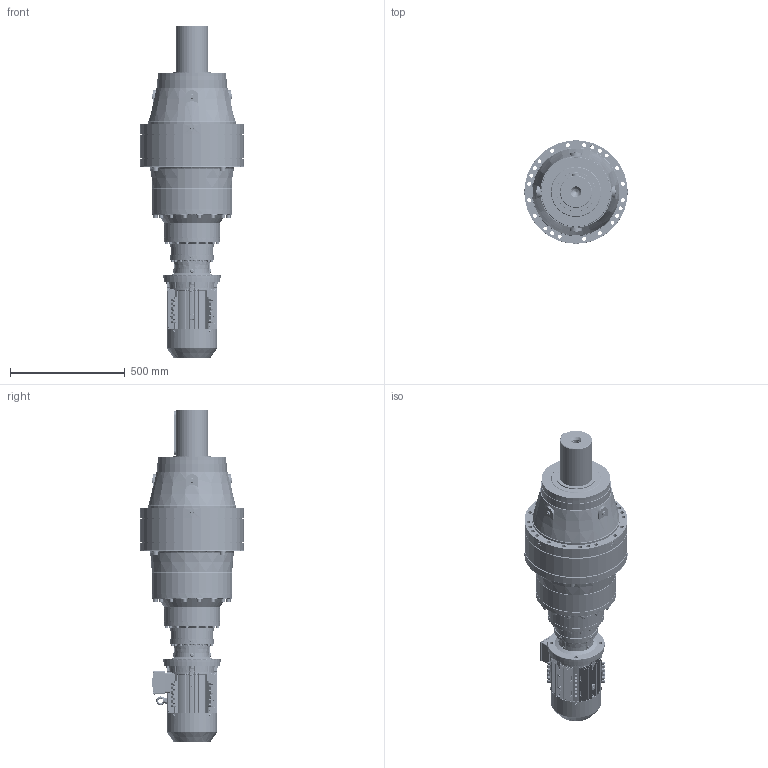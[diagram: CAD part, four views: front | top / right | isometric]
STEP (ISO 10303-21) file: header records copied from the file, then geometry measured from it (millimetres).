
FILE_DESCRIPTION (( 'STEP AP203' ), '1' );
FILE_NAME ('PVL-3504L-112-4,0KW.STEP', '2019-05-09T08:41:04', ( '' ), ( '' ), 'SwSTEP 2.0', 'SolidWorks 2012', '' );
FILE_SCHEMA (( 'CONFIG_CONTROL_DESIGN' ));
Length unit declared in the file: millimetre
Products named in the file (30): MX3-112_B5; DMX-IE3 112B5 flage; rivets for name plate gb_GB_OTHERRIVETS_TYPE93 2.5X5; PVL-3504L-112-4,0KW; cross recessed pan head screws gb_GB_CROSS_SCREWS_TYPE1 M5X12-12  H type-N_1; DMX-IE3 112  cable glands_1; eyebolts gb_GB_FASTENER_SCREWS_FRS M8-N_1; hexagon flange head tapping screws gb_GB_SQUARE_AND_HEXAGON_TYPE137 ST4.8X9.5 C-N_1; plain parallel keys_GB_CONNECTING_PIECE_KEYS_CSK 8X50_1; DMX-IE3 112   fan cover_1; DMX-IE3 112terminal box base_1; DMX-IE3 112terminal box cover_1; spring lock washers--normal type gb_GB_FASTENER_WASHER_SW 8_1; hexagon socket head cap screws gb_GB_FASTENER_SCREWS_HSHCS M8X40-N_1; hexagon nuts grade c gb_GB_FASTENER_NUT_SNC1 M8-N_1; circlips for shaft--type a large gb_GB_CONNECTING_PIECE_RING_RRA 28_1; DMX-IE3 112M4  oil seal_1; DMX-IE3 oil seal_1; DMX-IE3 112 fan_1; deep groove ball bearings gb_Rolling bearings 6306 GB 276-94_1; deep groove ball bearings gb_Rolling bearings 6206 GB 276-94_1; DMX-IE3 112 shield_1; DMX-IE3 112 shaft_1; PNL_3504L_0_0_A11_B5_ML55A_FL17A_0_0_0_0_0_0_0_0_0_0_0_M1; FL17A_Varsayìlan; DMX-IE3 112M4 casing_1; EK3504L_Varsayìlan; P35_Varsayìlan; ML55A_Varsayìlan; 11112B5_Varsayìlan
Assembly tree (59 placements, depth 3):
  PVL-3504L-112-4,0KW
    PNL_3504L_0_0_A11_B5_ML55A_FL17A_0_0_0_0_0_0_0_0_0_0_0_M1
      P35_Varsayìlan
      11112B5_Varsayìlan
      ML55A_Varsayìlan
      EK3504L_Varsayìlan
      FL17A_Varsayìlan
    MX3-112_B5
      DMX-IE3 112M4 casing_1
      DMX-IE3 112 shaft_1
      DMX-IE3 112 shield_1
      deep groove ball bearings gb_Rolling bearings 6306 GB 276-94_1
      deep groove ball bearings gb_Rolling bearings 6206 GB 276-94_1
      DMX-IE3 112M4  oil seal_1
      DMX-IE3 oil seal_1
      DMX-IE3 112 fan_1
      circlips for shaft--type a large gb_GB_CONNECTING_PIECE_RING_RRA 28_1
      spring lock washers--normal type gb_GB_FASTENER_WASHER_SW 8_1  x8
      hexagon nuts grade c gb_GB_FASTENER_NUT_SNC1 M8-N_1  x8
      hexagon socket head cap screws gb_GB_FASTENER_SCREWS_HSHCS M8X40-N_1  x8
      DMX-IE3 112   fan cover_1
      plain parallel keys_GB_CONNECTING_PIECE_KEYS_CSK 8X50_1
      DMX-IE3 112terminal box base_1
      DMX-IE3 112terminal box cover_1
      cross recessed pan head screws gb_GB_CROSS_SCREWS_TYPE1 M5X12-12  H type-N_1  x4
      eyebolts gb_GB_FASTENER_SCREWS_FRS M8-N_1
      hexagon flange head tapping screws gb_GB_SQUARE_AND_HEXAGON_TYPE137 ST4.8X9.5 C-N_1  x5
      DMX-IE3 112  cable glands_1  x2
      DMX-IE3 112B5 flage
      rivets for name plate gb_GB_OTHERRIVETS_TYPE93 2.5X5  x2
Bounding box: 450 x 450 x 1447.35 mm (x, y, z)
Volume: 83558978.2 mm3; surface area: 3786161.4 mm2
Topology: 65 solids, 71 shells, 9434 faces, 24536 edges, 15102 vertices
Faces by surface type: plane 3477, cylinder 2747, bspline 2026, cone 790, torus 264, sphere 130
Entity records: 341859 total; most frequent: CARTESIAN_POINT 134236, ORIENTED_EDGE 45342, DIRECTION 39692, EDGE_CURVE 22674, AXIS2_PLACEMENT_3D 14956, VERTEX_POINT 14135, VECTOR 9780, LINE 9780
